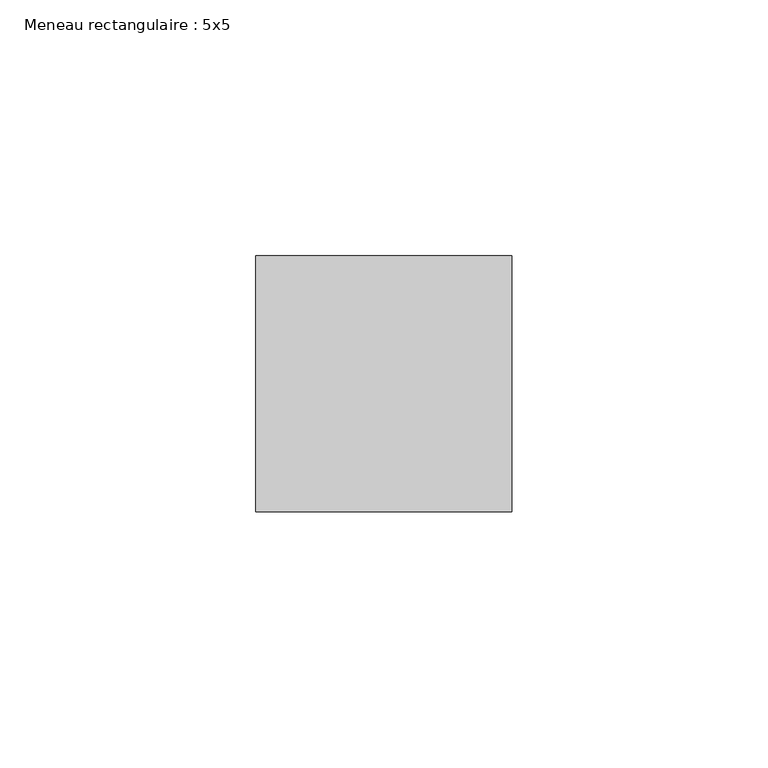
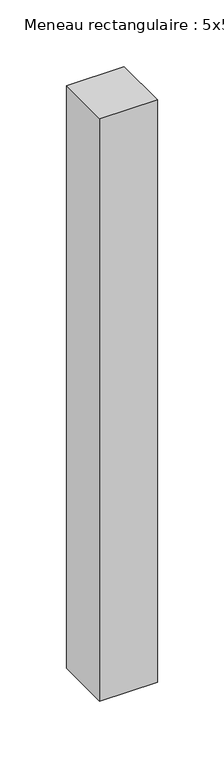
"""IFC4 building model written with IfcOpenShell, lengths in millimetres: member geometry, Meneau rectangulaire : 5x5."""

from ifc_helpers import new_model, si_unit, frame, origin, place, context, project, spatial, polyline, outline, extrude, source, transform, mapped, element, save


def meneau_rectangulaire_5x5_b6862429(model_context):
    return source(origin(), model_context, "Body", "SweptSolid", [
        extrude(outline(polyline([(25.0, 25.0), (25.0, -25.0), (-25.0, -25.0), (-25.0, 25.0), (25.0, 25.0)])), frame((0.0, 0.0, -533.4833579), z_axis=(0.0, 0.0, 1.0), x_axis=(1.0, 0.0, 0.0)), (0.0, 0.0, 1.0), 533.4833579),
    ])


if __name__ == "__main__":
    model = new_model("IFC4")
    model_context = context("Model", 3, world=origin())
    ifc_project = project(units=[si_unit("LENGTHUNIT", "METRE", prefix="MILLI")], contexts=[model_context])
    site = spatial("IfcSite", under=ifc_project)
    building = spatial("IfcBuilding", under=site)
    placement = place(None, origin())
    meneau_rectangulaire_5x5_shape = meneau_rectangulaire_5x5_b6862429(model_context)
    element("IfcMember", 1, ObjectType="Meneau rectangulaire : 5x5", at=placement, inside=building, context=model_context, shape_type="MappedRepresentation", body=[
        mapped(meneau_rectangulaire_5x5_shape, transform((0.0, 0.0, 0.0), x_axis=(1.0, 0.0, 0.0), y_axis=(0.0, 1.0, 0.0), z_axis=(0.0, 0.0, 1.0))),
    ])
    save(model, "model.ifc")
